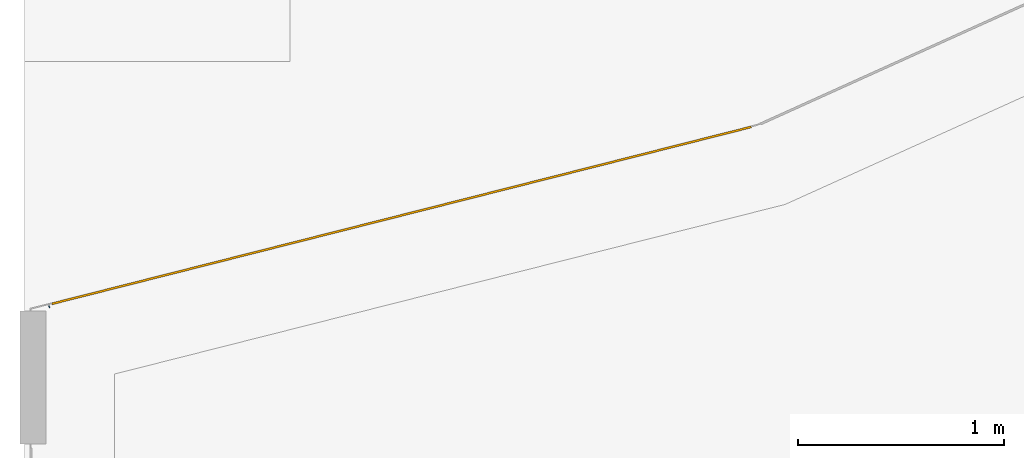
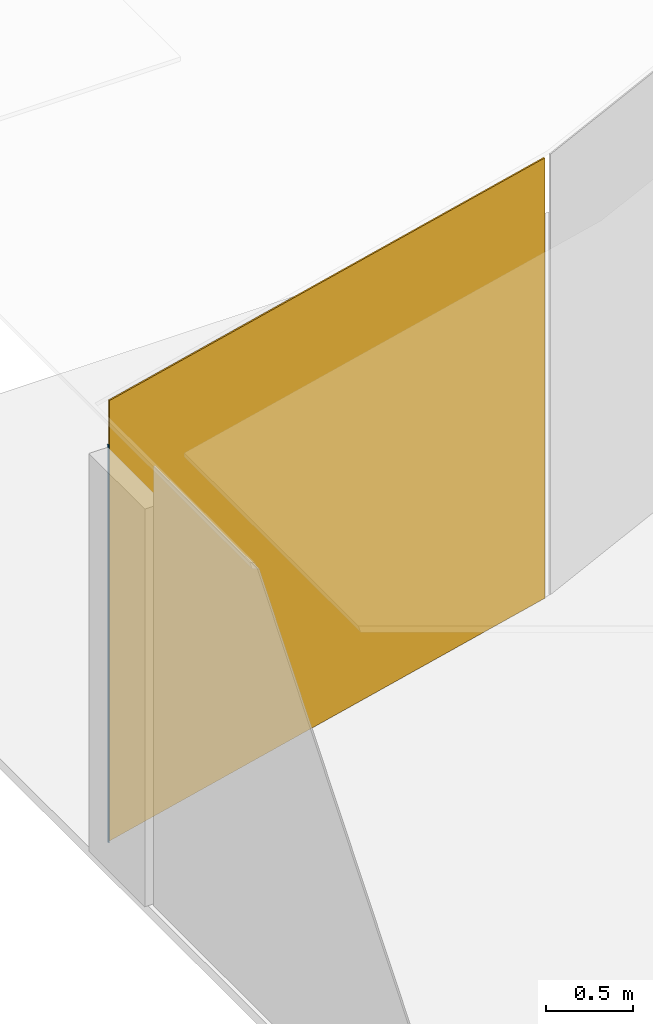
# One storey, part 3 of 7: 1 door, 1 wall, 1 opening.
"""IFC2X3 building model written with IfcOpenShell, lengths in millimetres."""

from ifc_helpers import new_model, entity, si_unit, converted_unit, derived_unit, direction, frame, frame_2d, origin, origin_with_axes, place, context, subcontext, project, spatial, rectangle, extrude, faceted_brep, source, transform, mapped, material, layer, layer_set, type_object, element, fill, save


model = new_model("IFC2X3")

# Units and contexts
model_context = context("Model", 3, precision=0.01, world=frame((0.0, 4.29681676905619e-09, 0.0)), true_north=direction((4.01073788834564e-13, 1.0)))
plan_context = context("Plan", 3, precision=0.01, world=frame((0.0, 4.29681676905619e-09, 0.0)), true_north=direction((4.01073788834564e-13, 1.0)))
body_context = subcontext(model_context, "Body", "Model", "MODEL_VIEW")
ifc_project = project(units=[converted_unit("PLANEANGLEUNIT", "DEGREE", entity("IfcPositiveLengthMeasure", 0.0174532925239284), si_unit("PLANEANGLEUNIT", "RADIAN"), dimensions=[0, 0, 0, 0, 0, 0, 0]), si_unit("AREAUNIT", "SQUARE_METRE"), si_unit("LENGTHUNIT", "METRE", prefix="MILLI"), si_unit("MASSUNIT", "GRAM", prefix="KILO"), si_unit("POWERUNIT", "WATT"), si_unit("PRESSUREUNIT", "PASCAL", prefix="KILO"), si_unit("FORCEUNIT", "NEWTON", prefix="KILO"), si_unit("ELECTRICVOLTAGEUNIT", "VOLT"), si_unit("ELECTRICCURRENTUNIT", "AMPERE"), si_unit("THERMODYNAMICTEMPERATUREUNIT", "DEGREE_CELSIUS"), si_unit("TIMEUNIT", "SECOND"), si_unit("VOLUMEUNIT", "CUBIC_METRE"), derived_unit("LINEARVELOCITYUNIT", [(si_unit("LENGTHUNIT", "METRE"), 1), (si_unit("TIMEUNIT", "SECOND"), -1)]), derived_unit("VOLUMETRICFLOWRATEUNIT", [(si_unit("VOLUMEUNIT", "CUBIC_METRE"), 1), (si_unit("TIMEUNIT", "SECOND"), -1)]), derived_unit("THERMALTRANSMITTANCEUNIT", [(si_unit("POWERUNIT", "WATT"), 1), (si_unit("THERMODYNAMICTEMPERATUREUNIT", "KELVIN"), -1), (si_unit("AREAUNIT", "SQUARE_METRE"), -1)]), derived_unit("SOUNDPRESSUREUNIT", [(si_unit("PRESSUREUNIT", "PASCAL"), 1)])], contexts=[model_context, plan_context])

# Site, building, storey
site_placement = place(None, origin_with_axes())
site = spatial("IfcSite", under=ifc_project, at=site_placement, Name="ENGM", CompositionType="ELEMENT")
building_placement = place(site_placement, origin_with_axes())
building = spatial("IfcBuilding", under=site, at=building_placement, Name="TS", CompositionType="ELEMENT")
storey_placement = place(building_placement, frame((0.0, 0.0, 210900.0), z_axis=(0.0, 0.0, 1.0), x_axis=(1.0, 0.0, 0.0)))
storey = spatial("IfcBuildingStorey", under=building, at=storey_placement, Name="Nivå F", CompositionType="ELEMENT", Elevation=210900.0)

# Wall, opening, door
ifc_material_1 = material(Name="T2 Stål Galvanisert")
ifc_layer = layer(ifc_material_1, 10.0)
ifc_layer_set = layer_set([ifc_layer], Name="Basic Wall:B200 - Metallplate 10mm")
wall_type = type_object("IfcWallType", Name="Basic Wall:B200 - Metallplate 10mm", PredefinedType="STANDARD", material=ifc_layer_set)
wall_placement = place(storey_placement, frame((714557.199679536, 441990.754957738, 0.0), z_axis=(0.0, 0.0, 1.0), x_axis=(0.969468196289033, 0.245217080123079, 0.0)))
wall = element("IfcWall", 1, at=wall_placement, inside=storey, type_object=wall_type, Name="Basic Wall:B200 - Metallplate 10mm", ObjectType="Basic Wall:B200 - Metallplate 10mm", context=body_context, shape_type="Brep", body=[
    faceted_brep([(0.0, -5.0, 0.0), (2.79791903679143, -5.0, 0.0), (2.79791903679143, -5.0, 2800.0), (0.0, -5.0, 2800.0), (2.79791903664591, 5.0, 0.0), (0.0, 5.0, 0.0), (0.0, 5.0, 2800.0), (2.79791903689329, 5.0, 2800.0)], [[[0, 1, 2, 3]], [[4, 5, 6, 7]], [[1, 0, 5, 4]], [[5, 0, 3, 6]], [[1, 4, 7, 2]], [[3, 2, 7, 6]]]),
])
opening_placement = place(wall_placement, frame((2.79791903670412, -5.00000000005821, 0.0), z_axis=(0.0, 0.0, 1.0), x_axis=(1.0, 0.0, 0.0)))
opening = element("IfcOpeningElement", 2, at=opening_placement, cuts=wall, Name="A200 - Rulleport:A233 - RY_AAO - 3530 x 3100 mm:1", ObjectType="Opening", context=body_context, shape_type="SweptSolid", body=[
    extrude(rectangle(XDim=3100.0, YDim=3530.0, at=frame_2d((1549.99999999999, 1765.0), x_axis=(1.0, 0.0))), frame((0.0, 0.0, 0.0), z_axis=(0.0, 1.0, 0.0), x_axis=(0.0, 0.0, 1.0)), (0.0, 0.0, 1.0), 9.99999999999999),
])
ifc_material_2 = material(Name="NO_Aluminium")
door_style = type_object("IfcDoorStyle", Name="A200 - Rulleport:A233 - RY_AAO - 3530 x 3100 mm", ConstructionType="NOTDEFINED", OperationType="NOTDEFINED", ParameterTakesPrecedence=False, Sizeable=False, material=ifc_material_2)
shared_shape = source(origin(), body_context, "Body", "SweptSolid", [
    extrude(rectangle(XDim=3500.0, YDim=10.0, at=frame_2d((0.0, -8.88178419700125e-16), x_axis=(1.0, 0.0))), frame((1765.0, -5.0, 0.0), z_axis=(0.0, 0.0, 1.0), x_axis=(-1.0, 0.0, 0.0)), (0.0, 0.0, 1.0), 3100.0),
])
door_placement = place(opening_placement, frame((3530.0, 9.99999999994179, 0.0), z_axis=(0.0, 0.0, 1.0), x_axis=(-1.0, 0.0, 0.0)))
door = element("IfcDoor", 3, at=door_placement, inside=storey, type_object=door_style, material=ifc_material_2, Name="A200 - Rulleport:A233 - RY_AAO - 3530 x 3100 mm", ObjectType="A200 - Rulleport:A233 - RY_AAO - 3530 x 3100 mm", OverallHeight=3099.99999999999, OverallWidth=3530.00000000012, context=body_context, shape_type="MappedRepresentation", body=[
    mapped(shared_shape, transform((0.0, 0.0, 0.0), scale=1.0)),
])
fill(opening, door)

save(model, "model.ifc")
